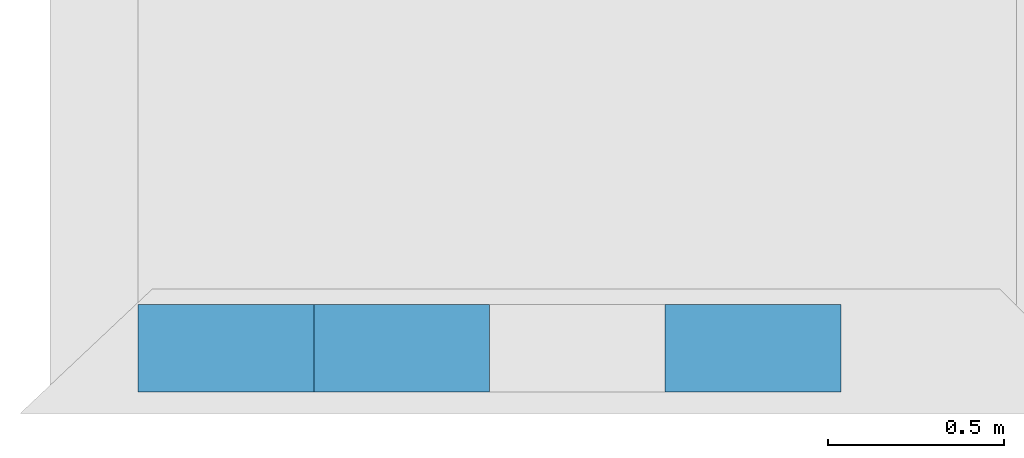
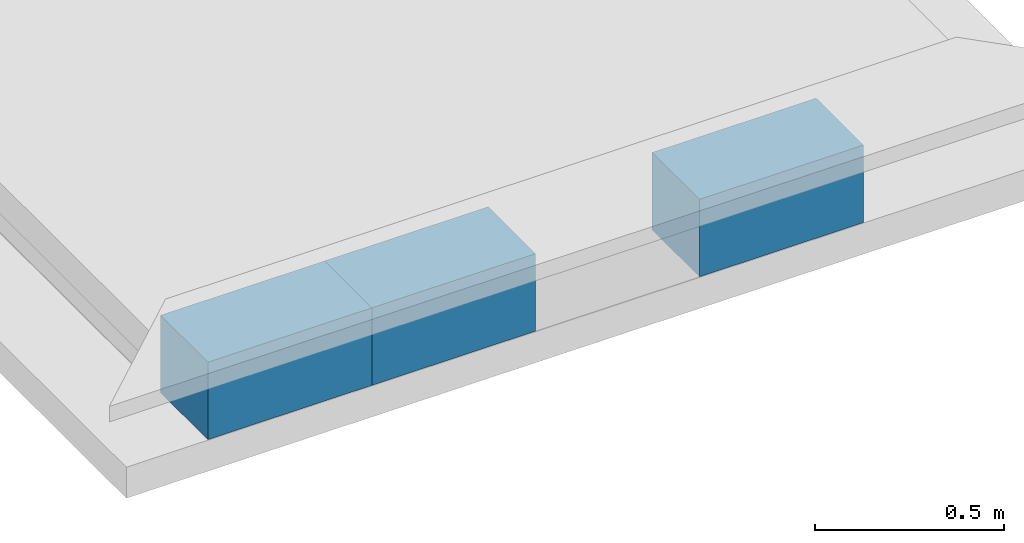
# One storey, part 1 of 3: 3 walls.
"""IFC4 building model written with IfcOpenShell, lengths in centimetres."""

import ifcopenshell
import ifcopenshell.guid

model = None  # the IFC model being written
_history = None  # IfcOwnerHistory: only IFC2X3 demands one
_inside = {}  # id of a spatial element -> (the spatial element, [elements in it])
_under = {}  # id of a project, library or spatial element -> (it, [spatial elements below it])
_declared = {}  # id of a project -> (the project, [libraries it declares])
_typed = {}  # id of a type object -> (the type object, [elements of that type])
_made_of = {}  # id of a material, layer set ... -> (it, [elements and type objects made of it])


def new_model(schema):
    """Start an empty IFC model of exactly this schema.

    Asked for "IFC4X3", IfcOpenShell would pick the latest addendum, in which some entities
    have other attributes; the version numbers below select the first issue.
    IFC2X3 requires an IfcOwnerHistory on every rooted entity: one is made here for all.
    """
    global model, _history
    if schema == "IFC4X3":
        model = ifcopenshell.file(schema_version=(4, 3, 0, 0))
    else:
        model = ifcopenshell.file(schema=schema)
    _inside.clear()
    _under.clear()
    _declared.clear()
    _typed.clear()
    _made_of.clear()
    _history = None
    if model.schema == "IFC2X3":
        org = make("IfcOrganization", Name="unknown")
        user = make(
            "IfcPersonAndOrganization",
            ThePerson=make("IfcPerson", FamilyName="unknown"),
            TheOrganization=org,
        )
        app = make(
            "IfcApplication",
            ApplicationDeveloper=org,
            Version="unknown",
            ApplicationFullName="unknown",
            ApplicationIdentifier="unknown",
        )
        _history = make(
            "IfcOwnerHistory",
            OwningUser=user,
            OwningApplication=app,
            ChangeAction="ADDED",
            CreationDate=0,
        )
    return model


def make(cls, **values):
    """One entity of the class cls with the attributes given. An attribute that is None is left unset."""
    return model.create_entity(
        cls, **{name: value for name, value in values.items() if value is not None}
    )


def entity(cls, *values):
    """Any entity or typed value of the class cls, its attributes in the order of the schema. None: left unset."""
    e = model.create_entity(cls)
    for i, value in enumerate(values):
        if value is not None:
            e[i] = value
    return e


def rooted(cls, **values):
    """An entity with a GlobalId (a new one), such as an element, a storey or a relation."""
    return make(cls, GlobalId=ifcopenshell.guid.new(), OwnerHistory=_history, **values)


def si_unit(unit_type, name, prefix=None):
    """IfcSIUnit, for example si_unit("LENGTHUNIT", "METRE", prefix="MILLI")."""
    return make("IfcSIUnit", UnitType=unit_type, Prefix=prefix, Name=name)


def converted_unit(unit_type, name, factor, base, dimensions=None, offset=None):
    """IfcConversionBasedUnit, such as the inch: factor (a typed value) times the base unit."""
    return make(
        "IfcConversionBasedUnit"
        if offset is None
        else "IfcConversionBasedUnitWithOffset",
        ConversionOffset=offset,
        Dimensions=None
        if dimensions is None
        else entity("IfcDimensionalExponents", *dimensions),
        UnitType=unit_type,
        Name=name,
        ConversionFactor=make(
            "IfcMeasureWithUnit", ValueComponent=factor, UnitComponent=base
        ),
    )


def assignment(units):
    """IfcUnitAssignment: the units of a project."""
    return None if units is None else make("IfcUnitAssignment", Units=units)


def point(xyz):
    """IfcCartesianPoint."""
    return None if xyz is None else make("IfcCartesianPoint", Coordinates=xyz)


def direction(xyz):
    """IfcDirection."""
    return None if xyz is None else make("IfcDirection", DirectionRatios=xyz)


def frame(location, z_axis=None, x_axis=None):
    """IfcAxis2Placement3D, a coordinate frame: its origin and axes. An axis left out is left unset."""
    return make(
        "IfcAxis2Placement3D",
        Location=point(location),
        Axis=direction(z_axis),
        RefDirection=direction(x_axis),
    )


def origin():
    """The frame at (0, 0, 0) with its axes left unset."""
    return frame((0.0, 0.0, 0.0))


def place(relative_to, where):
    """IfcLocalPlacement: puts the frame where relative to a parent placement (None: the world)."""
    return make(
        "IfcLocalPlacement", PlacementRelTo=relative_to, RelativePlacement=where
    )


def context(
    kind, dimensions, precision=None, world=None, true_north=None, identifier=None
):
    """IfcGeometricRepresentationContext, for example the 3D "Model" context."""
    return make(
        "IfcGeometricRepresentationContext",
        ContextIdentifier=identifier,
        ContextType=kind,
        CoordinateSpaceDimension=dimensions,
        Precision=precision,
        WorldCoordinateSystem=world,
        TrueNorth=true_north,
    )


def subcontext(parent, identifier, kind, view, scale=None):
    """IfcGeometricRepresentationSubContext, for example "Body" below "Model"."""
    return make(
        "IfcGeometricRepresentationSubContext",
        ContextIdentifier=identifier,
        ContextType=kind,
        ParentContext=parent,
        TargetScale=scale,
        TargetView=view,
    )


def project(units=None, contexts=None):
    """IfcProject with its units and contexts."""
    return rooted(
        "IfcProject",
        Name="project",
        RepresentationContexts=contexts,
        UnitsInContext=assignment(units),
    )


def spatial(cls, under=None, at=None, **own):
    """A site, building, storey or space (cls), placed at a placement, below another one or the project."""
    s = rooted(cls, ObjectPlacement=at, **own)
    if under is not None:
        _under.setdefault(under.id(), (under, []))[1].append(s)
    return s


def point_list(points):
    """IfcCartesianPointList2D or 3D."""
    cls = (
        "IfcCartesianPointList2D" if len(points[0]) == 2 else "IfcCartesianPointList3D"
    )
    return make(cls, CoordList=points)


def indexed_curve(points, segments=None, self_intersect=None):
    """IfcIndexedPolyCurve: lines and arcs through numbered points (the first is 1)."""
    return make(
        "IfcIndexedPolyCurve",
        Points=point_list(points),
        Segments=segments,
        SelfIntersect=self_intersect,
    )


def outline(outer, holes=None, kind="AREA"):
    """IfcArbitraryClosedProfileDef: a profile drawn as a closed curve; with holes, ...WithVoids."""
    if holes is None:
        return make("IfcArbitraryClosedProfileDef", ProfileType=kind, OuterCurve=outer)
    return make(
        "IfcArbitraryProfileDefWithVoids",
        ProfileType=kind,
        OuterCurve=outer,
        InnerCurves=holes,
    )


def extrude(swept, where, along, depth):
    """IfcExtrudedAreaSolid: the profile swept, set in the frame where, extruded along a direction by depth."""
    return make(
        "IfcExtrudedAreaSolid",
        SweptArea=swept,
        Position=where,
        ExtrudedDirection=direction(along),
        Depth=depth,
    )


def shape(context_of_items, identifier, shape_type, items):
    """IfcShapeRepresentation: the items that make up one representation, for example the "Body"."""
    return make(
        "IfcShapeRepresentation",
        ContextOfItems=context_of_items,
        RepresentationIdentifier=identifier,
        RepresentationType=shape_type,
        Items=items,
    )


def material(Name=None, Category=None):
    """IfcMaterial."""
    return make("IfcMaterial", Name=Name, Category=Category)


def made_of(thing, what):
    """Note that an element or type object is made of a material, layer set ...; save() writes the relation."""
    if what is not None:
        _made_of.setdefault(what.id(), (what, []))[1].append(thing)
    return thing


def type_object(cls, material=None, **own):
    """A type object (cls), such as IfcWallType, which elements share."""
    return made_of(rooted(cls, **own), material)


def element(
    cls,
    number,
    at=None,
    inside=None,
    cuts=None,
    type_object=None,
    material=None,
    context=None,
    identifier="Body",
    shape_type=None,
    held_by="IfcProductDefinitionShape",
    body=None,
    shapes=None,
    **own,
):
    """One element of the class cls, such as IfcWall. Its Tag is "e" and its number.

    at: its placement. inside: the storey or other place that contains it. cuts: it is an
    opening in that element (IfcRelVoidsElement). A single representation is given by context,
    identifier, shape_type and body (its items); several are given by shapes. held_by: the class
    of the entity that holds the representations. save() writes the other relations.
    """
    e = rooted(cls, Tag="e%d" % number, ObjectPlacement=at, **own)
    if body is not None:
        shapes = [shape(context, identifier, shape_type, body)]
    if shapes is not None:
        e.Representation = make(held_by, Representations=shapes)
    if inside is not None:
        _inside.setdefault(inside.id(), (inside, []))[1].append(e)
    if cuts is not None:
        rooted(
            "IfcRelVoidsElement", RelatingBuildingElement=cuts, RelatedOpeningElement=e
        )
    if type_object is not None:
        _typed.setdefault(type_object.id(), (type_object, []))[1].append(e)
    return made_of(e, material)


def aggregate(whole, parts):
    """IfcRelAggregates: a whole, such as a stair, and the parts it consists of."""
    return rooted("IfcRelAggregates", RelatingObject=whole, RelatedObjects=parts)


def save(model, path):
    """Write the relations noted so far, then the file.

    IfcRelAggregates (storeys below a building ...), IfcRelContainedInSpatialStructure (elements
    in a storey), IfcRelDefinesByType, IfcRelAssociatesMaterial and IfcRelDeclares: one each for
    every whole, place, type object, material and project.
    """
    for whole, parts in _under.values():
        aggregate(whole, parts)
    for where, things in _inside.values():
        rooted(
            "IfcRelContainedInSpatialStructure",
            RelatedElements=things,
            RelatingStructure=where,
        )
    for kind, things in _typed.values():
        rooted("IfcRelDefinesByType", RelatedObjects=things, RelatingType=kind)
    for what, things in _made_of.values():
        rooted("IfcRelAssociatesMaterial", RelatedObjects=things, RelatingMaterial=what)
    for by, libraries in _declared.values():
        rooted("IfcRelDeclares", RelatingContext=by, RelatedDefinitions=libraries)
    model.write(path)


model = new_model("IFC4")

# Units and contexts
model_context = context("Model", 3, precision=0.001, world=origin(), true_north=direction((0.0, 1.0)))
body_context = subcontext(model_context, "Body", "Model", "MODEL_VIEW")
ifc_project = project(units=[si_unit("LENGTHUNIT", "METRE", prefix="CENTI"), si_unit("AREAUNIT", "SQUARE_METRE"), si_unit("VOLUMEUNIT", "CUBIC_METRE"), converted_unit("PLANEANGLEUNIT", "DEGREE", entity("IfcPlaneAngleMeasure", 0.017453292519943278), si_unit("PLANEANGLEUNIT", "RADIAN"), dimensions=[0, 0, 0, 0, 0, 0, 0])], contexts=[model_context])

# Site, building, storey
site_placement = place(None, origin())
site = spatial("IfcSite", under=ifc_project, at=site_placement, Name="Default", CompositionType="ELEMENT")
building_placement = place(site_placement, origin())
building = spatial("IfcBuilding", under=site, at=building_placement, CompositionType="ELEMENT")
storey_placement = place(building_placement, frame((0.0, 0.0, 256.0)))
storey = spatial("IfcBuildingStorey", under=building, at=storey_placement, Name="L01__ABOVE Slab", CompositionType="ELEMENT", Elevation=255.9999999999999)

# Walls
ifc_material = material(Name="Miscellaneous__Timber Block__Triqbriq, X", Category="Miscellaneous")
wall_type = type_object("IfcWallType", Name="Columns : wll_s__TIMBER BLOCK__Triqbriq, Full Width__wp : WS25", PredefinedType="SOLIDWALL", material=ifc_material)
wall_1_placement = place(storey_placement, frame((3056.8289147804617, 2128.5200309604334, 0.0)))
element("IfcWall", 1, at=wall_1_placement, inside=storey, type_object=wall_type, material=ifc_material, Name="Columns : wll_s__TIMBER BLOCK__Triqbriq, Full Width__wp : WS25", PredefinedType="SOLIDWALL", context=body_context, shape_type="SweptSolid", body=[
    extrude(outline(indexed_curve([(-4.166666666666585, -4.166666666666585), (4.166666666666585, -4.166666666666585), (4.166666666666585, 4.166666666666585), (-4.166666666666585, 4.166666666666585), (-4.166666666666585, -4.166666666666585)], self_intersect=False)), frame((37.50000000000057, 12.500000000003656, 16.666666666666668), z_axis=(0.0, 0.0, 1.0), x_axis=(0.0, 1.0, 0.0)), (0.0, 0.0, 1.0), 8.333333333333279),
    extrude(outline(indexed_curve([(-4.166666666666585, -4.166666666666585), (4.166666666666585, -4.166666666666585), (4.166666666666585, 4.166666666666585), (-4.166666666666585, 4.166666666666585), (-4.166666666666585, -4.166666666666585)], self_intersect=False)), frame((12.500000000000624, 12.500000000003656, 16.666666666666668), z_axis=(0.0, 0.0, 1.0), x_axis=(0.0, 1.0, 0.0)), (0.0, 0.0, 1.0), 8.333333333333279),
    extrude(outline(indexed_curve([(-4.166666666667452, -4.166666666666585), (4.166666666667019, -4.166666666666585), (4.166666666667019, 4.166666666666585), (-4.166666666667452, 4.166666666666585), (-4.166666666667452, -4.166666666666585)], self_intersect=False)), frame((45.83333333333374, 20.83333333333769, 8.333333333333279), z_axis=(0.0, 0.0, 1.0), x_axis=(0.0, 1.0, 0.0)), (0.0, 0.0, 1.0), 8.333333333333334),
    extrude(outline(indexed_curve([(-4.166666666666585, -4.166666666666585), (4.166666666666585, -4.166666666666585), (4.166666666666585, 4.166666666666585), (-4.166666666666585, 4.166666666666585), (-4.166666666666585, -4.166666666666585)], self_intersect=False)), frame((45.83333333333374, 4.166666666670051, 8.333333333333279), z_axis=(0.0, 0.0, 1.0), x_axis=(0.0, 1.0, 0.0)), (0.0, 0.0, 1.0), 8.333333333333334),
    extrude(outline(indexed_curve([(-4.166666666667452, -4.166666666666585), (4.166666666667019, -4.166666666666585), (4.166666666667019, 4.166666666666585), (-4.166666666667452, 4.166666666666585), (-4.166666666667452, -4.166666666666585)], self_intersect=False)), frame((4.166666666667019, 20.83333333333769, 8.333333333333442), z_axis=(0.0, 0.0, 1.0), x_axis=(0.0, 1.0, 0.0)), (0.0, 0.0, 1.0), 8.333333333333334),
    extrude(outline(indexed_curve([(-4.166666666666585, -4.166666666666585), (4.166666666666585, -4.166666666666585), (4.166666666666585, 4.166666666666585), (-4.166666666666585, 4.166666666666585), (-4.166666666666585, -4.166666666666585)], self_intersect=False)), frame((4.166666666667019, 4.166666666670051, 8.333333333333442), z_axis=(0.0, 0.0, 1.0), x_axis=(0.0, 1.0, 0.0)), (0.0, 0.0, 1.0), 8.333333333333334),
    extrude(outline(indexed_curve([(-4.166666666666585, -8.33333333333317), (4.166666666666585, -8.33333333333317), (4.166666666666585, 8.333333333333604), (-4.166666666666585, 8.333333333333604), (-4.166666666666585, -8.33333333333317)], self_intersect=False)), frame((25.0, 4.166666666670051, 8.333333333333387), z_axis=(0.0, 0.0, 1.0), x_axis=(0.0, 1.0, 0.0)), (0.0, 0.0, 1.0), 8.333333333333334),
    extrude(outline(indexed_curve([(-4.166666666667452, -8.33333333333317), (4.166666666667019, -8.33333333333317), (4.166666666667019, 8.333333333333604), (-4.166666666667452, 8.333333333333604), (-4.166666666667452, -8.33333333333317)], self_intersect=False)), frame((25.0, 20.83333333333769, 8.333333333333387), z_axis=(0.0, 0.0, 1.0), x_axis=(0.0, 1.0, 0.0)), (0.0, 0.0, 1.0), 8.333333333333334),
    extrude(outline(indexed_curve([(-4.166666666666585, -25.00000000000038), (4.166666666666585, -25.00000000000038), (4.166666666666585, 24.999999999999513), (-4.166666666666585, 24.999999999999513), (-4.166666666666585, -25.00000000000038)], self_intersect=False)), frame((25.0, 12.500000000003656, 8.333333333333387), z_axis=(0.0, 0.0, 1.0), x_axis=(0.0, 1.0, 0.0)), (0.0, 0.0, 1.0), 8.333333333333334),
    extrude(outline(indexed_curve([(-12.50000000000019, -4.166666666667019), (12.500000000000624, -4.166666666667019), (12.500000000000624, 4.166666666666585), (-12.50000000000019, 4.166666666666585), (-12.50000000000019, -4.166666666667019)], self_intersect=False)), frame((29.1666666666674, 12.500000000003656, 0.0), z_axis=(0.0, 0.0, 1.0), x_axis=(0.0, 1.0, 0.0)), (0.0, 0.0, 1.0), 8.333333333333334),
    extrude(outline(indexed_curve([(-12.50000000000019, -4.166666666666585), (12.500000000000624, -4.166666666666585), (12.500000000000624, 4.166666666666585), (-12.50000000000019, 4.166666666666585), (-12.50000000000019, -4.166666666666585)], self_intersect=False)), frame((20.833333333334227, 12.500000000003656, 0.0), z_axis=(0.0, 0.0, 1.0), x_axis=(0.0, 1.0, 0.0)), (0.0, 0.0, 1.0), 8.333333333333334),
    extrude(outline(indexed_curve([(-12.50000000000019, -4.166666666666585), (12.500000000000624, -4.166666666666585), (12.500000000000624, 4.166666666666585), (-12.50000000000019, 4.166666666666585), (-12.50000000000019, -4.166666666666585)], self_intersect=False)), frame((45.833333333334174, 12.500000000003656, 0.0), z_axis=(0.0, 0.0, 1.0), x_axis=(0.0, 1.0, 0.0)), (0.0, 0.0, 1.0), 8.333333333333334),
    extrude(outline(indexed_curve([(-12.50000000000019, -4.166666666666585), (12.500000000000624, -4.166666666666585), (12.500000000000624, 4.166666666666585), (-12.50000000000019, 4.166666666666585), (-12.50000000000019, -4.166666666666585)], self_intersect=False)), frame((4.166666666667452, 12.500000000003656, 0.0), z_axis=(0.0, 0.0, 1.0), x_axis=(0.0, 1.0, 0.0)), (0.0, 0.0, 1.0), 8.333333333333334),
    extrude(outline(indexed_curve([(-4.166666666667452, -4.166666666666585), (4.166666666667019, -4.166666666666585), (4.166666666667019, 4.166666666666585), (-4.166666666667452, 4.166666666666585), (-4.166666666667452, -4.166666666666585)], self_intersect=False)), frame((37.500000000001, 20.83333333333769, 0.0), z_axis=(0.0, 0.0, 1.0), x_axis=(0.0, 1.0, 0.0)), (0.0, 0.0, 1.0), 25.0),
    extrude(outline(indexed_curve([(-4.166666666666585, -4.166666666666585), (4.166666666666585, -4.166666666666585), (4.166666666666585, 4.166666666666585), (-4.166666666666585, 4.166666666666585), (-4.166666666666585, -4.166666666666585)], self_intersect=False)), frame((37.500000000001, 4.166666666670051, 0.0), z_axis=(0.0, 0.0, 1.0), x_axis=(0.0, 1.0, 0.0)), (0.0, 0.0, 1.0), 25.0),
    extrude(outline(indexed_curve([(-4.166666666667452, -4.166666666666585), (4.166666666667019, -4.166666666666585), (4.166666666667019, 4.166666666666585), (-4.166666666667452, 4.166666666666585), (-4.166666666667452, -4.166666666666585)], self_intersect=False)), frame((12.500000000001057, 20.83333333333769, 0.0), z_axis=(0.0, 0.0, 1.0), x_axis=(0.0, 1.0, 0.0)), (0.0, 0.0, 1.0), 25.0),
    extrude(outline(indexed_curve([(-4.166666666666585, -4.166666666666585), (4.166666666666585, -4.166666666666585), (4.166666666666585, 4.166666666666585), (-4.166666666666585, 4.166666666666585), (-4.166666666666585, -4.166666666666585)], self_intersect=False)), frame((12.500000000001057, 4.166666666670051, 0.0), z_axis=(0.0, 0.0, 1.0), x_axis=(0.0, 1.0, 0.0)), (0.0, 0.0, 1.0), 25.0),
    extrude(outline(indexed_curve([(-12.50000000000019, -4.166666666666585), (12.500000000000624, -4.166666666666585), (12.500000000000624, 4.166666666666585), (-12.50000000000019, 4.166666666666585), (-12.50000000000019, -4.166666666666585)], self_intersect=False)), frame((45.83333333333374, 12.500000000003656, 16.666666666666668), z_axis=(0.0, 0.0, 1.0), x_axis=(0.0, 1.0, 0.0)), (0.0, 0.0, 1.0), 8.333333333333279),
    extrude(outline(indexed_curve([(-12.50000000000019, -4.166666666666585), (12.500000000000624, -4.166666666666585), (12.500000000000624, 4.166666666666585), (-12.50000000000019, 4.166666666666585), (-12.50000000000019, -4.166666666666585)], self_intersect=False)), frame((29.1666666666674, 12.500000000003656, 16.666666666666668), z_axis=(0.0, 0.0, 1.0), x_axis=(0.0, 1.0, 0.0)), (0.0, 0.0, 1.0), 8.333333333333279),
    extrude(outline(indexed_curve([(-12.50000000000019, -4.166666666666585), (12.500000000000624, -4.166666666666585), (12.500000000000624, 4.166666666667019), (-12.50000000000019, 4.166666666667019), (-12.50000000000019, -4.166666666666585)], self_intersect=False)), frame((20.833333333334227, 12.500000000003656, 16.666666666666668), z_axis=(0.0, 0.0, 1.0), x_axis=(0.0, 1.0, 0.0)), (0.0, 0.0, 1.0), 8.333333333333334),
    extrude(outline(indexed_curve([(-12.50000000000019, -4.166666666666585), (12.500000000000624, -4.166666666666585), (12.500000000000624, 4.166666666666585), (-12.50000000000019, 4.166666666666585), (-12.50000000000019, -4.166666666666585)], self_intersect=False)), frame((4.166666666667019, 12.500000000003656, 16.666666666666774), z_axis=(0.0, 0.0, 1.0), x_axis=(0.0, 1.0, 0.0)), (0.0, 0.0, 1.0), 8.333333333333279),
])
wall_2_placement = place(storey_placement, frame((2956.828914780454, 2128.5200309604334, 0.0)))
element("IfcWall", 2, at=wall_2_placement, inside=storey, type_object=wall_type, material=ifc_material, Name="Columns : wll_s__TIMBER BLOCK__Triqbriq, Full Width__wp : WS25", PredefinedType="SOLIDWALL", context=body_context, shape_type="SweptSolid", body=[
    extrude(outline(indexed_curve([(-4.166666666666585, -4.166666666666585), (4.166666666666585, -4.166666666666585), (4.166666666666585, 4.166666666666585), (-4.166666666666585, 4.166666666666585), (-4.166666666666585, -4.166666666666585)], self_intersect=False)), frame((37.50000000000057, 12.500000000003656, 16.666666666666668), z_axis=(0.0, 0.0, 1.0), x_axis=(0.0, 1.0, 0.0)), (0.0, 0.0, 1.0), 8.333333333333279),
    extrude(outline(indexed_curve([(-4.166666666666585, -4.166666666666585), (4.166666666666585, -4.166666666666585), (4.166666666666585, 4.166666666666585), (-4.166666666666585, 4.166666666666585), (-4.166666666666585, -4.166666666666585)], self_intersect=False)), frame((12.500000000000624, 12.500000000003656, 16.666666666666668), z_axis=(0.0, 0.0, 1.0), x_axis=(0.0, 1.0, 0.0)), (0.0, 0.0, 1.0), 8.333333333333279),
    extrude(outline(indexed_curve([(-4.166666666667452, -4.166666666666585), (4.166666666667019, -4.166666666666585), (4.166666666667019, 4.166666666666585), (-4.166666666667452, 4.166666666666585), (-4.166666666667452, -4.166666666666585)], self_intersect=False)), frame((45.83333333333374, 20.83333333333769, 8.333333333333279), z_axis=(0.0, 0.0, 1.0), x_axis=(0.0, 1.0, 0.0)), (0.0, 0.0, 1.0), 8.333333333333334),
    extrude(outline(indexed_curve([(-4.166666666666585, -4.166666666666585), (4.166666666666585, -4.166666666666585), (4.166666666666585, 4.166666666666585), (-4.166666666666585, 4.166666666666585), (-4.166666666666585, -4.166666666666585)], self_intersect=False)), frame((45.83333333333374, 4.166666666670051, 8.333333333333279), z_axis=(0.0, 0.0, 1.0), x_axis=(0.0, 1.0, 0.0)), (0.0, 0.0, 1.0), 8.333333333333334),
    extrude(outline(indexed_curve([(-4.166666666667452, -4.166666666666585), (4.166666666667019, -4.166666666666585), (4.166666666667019, 4.166666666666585), (-4.166666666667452, 4.166666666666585), (-4.166666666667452, -4.166666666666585)], self_intersect=False)), frame((4.166666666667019, 20.83333333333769, 8.333333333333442), z_axis=(0.0, 0.0, 1.0), x_axis=(0.0, 1.0, 0.0)), (0.0, 0.0, 1.0), 8.333333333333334),
    extrude(outline(indexed_curve([(-4.166666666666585, -4.166666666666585), (4.166666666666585, -4.166666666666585), (4.166666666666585, 4.166666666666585), (-4.166666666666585, 4.166666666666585), (-4.166666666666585, -4.166666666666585)], self_intersect=False)), frame((4.166666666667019, 4.166666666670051, 8.333333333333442), z_axis=(0.0, 0.0, 1.0), x_axis=(0.0, 1.0, 0.0)), (0.0, 0.0, 1.0), 8.333333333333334),
    extrude(outline(indexed_curve([(-4.166666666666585, -8.333333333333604), (4.166666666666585, -8.333333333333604), (4.166666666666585, 8.33333333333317), (-4.166666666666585, 8.33333333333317), (-4.166666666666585, -8.333333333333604)], self_intersect=False)), frame((25.0, 4.166666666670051, 8.333333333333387), z_axis=(0.0, 0.0, 1.0), x_axis=(0.0, 1.0, 0.0)), (0.0, 0.0, 1.0), 8.333333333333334),
    extrude(outline(indexed_curve([(-4.166666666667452, -8.333333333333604), (4.166666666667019, -8.333333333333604), (4.166666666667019, 8.33333333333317), (-4.166666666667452, 8.33333333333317), (-4.166666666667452, -8.333333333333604)], self_intersect=False)), frame((25.0, 20.83333333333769, 8.333333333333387), z_axis=(0.0, 0.0, 1.0), x_axis=(0.0, 1.0, 0.0)), (0.0, 0.0, 1.0), 8.333333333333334),
    extrude(outline(indexed_curve([(-4.166666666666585, -24.999999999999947), (4.166666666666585, -24.999999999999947), (4.166666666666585, 24.999999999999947), (-4.166666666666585, 24.999999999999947), (-4.166666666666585, -24.999999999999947)], self_intersect=False)), frame((25.0, 12.500000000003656, 8.333333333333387), z_axis=(0.0, 0.0, 1.0), x_axis=(0.0, 1.0, 0.0)), (0.0, 0.0, 1.0), 8.333333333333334),
    extrude(outline(indexed_curve([(-12.50000000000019, -4.166666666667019), (12.500000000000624, -4.166666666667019), (12.500000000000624, 4.166666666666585), (-12.50000000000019, 4.166666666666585), (-12.50000000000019, -4.166666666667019)], self_intersect=False)), frame((29.1666666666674, 12.500000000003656, 0.0), z_axis=(0.0, 0.0, 1.0), x_axis=(0.0, 1.0, 0.0)), (0.0, 0.0, 1.0), 8.333333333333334),
    extrude(outline(indexed_curve([(-12.50000000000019, -4.166666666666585), (12.500000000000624, -4.166666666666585), (12.500000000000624, 4.166666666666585), (-12.50000000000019, 4.166666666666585), (-12.50000000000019, -4.166666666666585)], self_intersect=False)), frame((20.833333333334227, 12.500000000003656, 0.0), z_axis=(0.0, 0.0, 1.0), x_axis=(0.0, 1.0, 0.0)), (0.0, 0.0, 1.0), 8.333333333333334),
    extrude(outline(indexed_curve([(-12.50000000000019, -4.166666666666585), (12.500000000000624, -4.166666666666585), (12.500000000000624, 4.166666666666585), (-12.50000000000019, 4.166666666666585), (-12.50000000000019, -4.166666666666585)], self_intersect=False)), frame((45.833333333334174, 12.500000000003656, 0.0), z_axis=(0.0, 0.0, 1.0), x_axis=(0.0, 1.0, 0.0)), (0.0, 0.0, 1.0), 8.333333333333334),
    extrude(outline(indexed_curve([(-12.50000000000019, -4.166666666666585), (12.500000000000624, -4.166666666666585), (12.500000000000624, 4.166666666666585), (-12.50000000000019, 4.166666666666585), (-12.50000000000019, -4.166666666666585)], self_intersect=False)), frame((4.166666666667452, 12.500000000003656, 0.0), z_axis=(0.0, 0.0, 1.0), x_axis=(0.0, 1.0, 0.0)), (0.0, 0.0, 1.0), 8.333333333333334),
    extrude(outline(indexed_curve([(-4.166666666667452, -4.166666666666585), (4.166666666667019, -4.166666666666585), (4.166666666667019, 4.166666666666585), (-4.166666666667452, 4.166666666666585), (-4.166666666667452, -4.166666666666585)], self_intersect=False)), frame((37.500000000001, 20.83333333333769, 0.0), z_axis=(0.0, 0.0, 1.0), x_axis=(0.0, 1.0, 0.0)), (0.0, 0.0, 1.0), 25.0),
    extrude(outline(indexed_curve([(-4.166666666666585, -4.166666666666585), (4.166666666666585, -4.166666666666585), (4.166666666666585, 4.166666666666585), (-4.166666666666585, 4.166666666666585), (-4.166666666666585, -4.166666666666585)], self_intersect=False)), frame((37.500000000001, 4.166666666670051, 0.0), z_axis=(0.0, 0.0, 1.0), x_axis=(0.0, 1.0, 0.0)), (0.0, 0.0, 1.0), 25.0),
    extrude(outline(indexed_curve([(-4.166666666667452, -4.166666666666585), (4.166666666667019, -4.166666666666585), (4.166666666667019, 4.166666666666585), (-4.166666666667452, 4.166666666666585), (-4.166666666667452, -4.166666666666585)], self_intersect=False)), frame((12.500000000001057, 20.83333333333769, 0.0), z_axis=(0.0, 0.0, 1.0), x_axis=(0.0, 1.0, 0.0)), (0.0, 0.0, 1.0), 25.0),
    extrude(outline(indexed_curve([(-4.166666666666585, -4.166666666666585), (4.166666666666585, -4.166666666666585), (4.166666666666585, 4.166666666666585), (-4.166666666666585, 4.166666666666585), (-4.166666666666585, -4.166666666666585)], self_intersect=False)), frame((12.500000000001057, 4.166666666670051, 0.0), z_axis=(0.0, 0.0, 1.0), x_axis=(0.0, 1.0, 0.0)), (0.0, 0.0, 1.0), 25.0),
    extrude(outline(indexed_curve([(-12.50000000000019, -4.166666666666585), (12.500000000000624, -4.166666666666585), (12.500000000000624, 4.166666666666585), (-12.50000000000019, 4.166666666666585), (-12.50000000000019, -4.166666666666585)], self_intersect=False)), frame((45.83333333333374, 12.500000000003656, 16.666666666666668), z_axis=(0.0, 0.0, 1.0), x_axis=(0.0, 1.0, 0.0)), (0.0, 0.0, 1.0), 8.333333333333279),
    extrude(outline(indexed_curve([(-12.50000000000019, -4.166666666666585), (12.500000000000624, -4.166666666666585), (12.500000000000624, 4.166666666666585), (-12.50000000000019, 4.166666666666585), (-12.50000000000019, -4.166666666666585)], self_intersect=False)), frame((29.1666666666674, 12.500000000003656, 16.666666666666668), z_axis=(0.0, 0.0, 1.0), x_axis=(0.0, 1.0, 0.0)), (0.0, 0.0, 1.0), 8.333333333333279),
    extrude(outline(indexed_curve([(-12.50000000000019, -4.166666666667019), (12.500000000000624, -4.166666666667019), (12.500000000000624, 4.166666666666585), (-12.50000000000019, 4.166666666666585), (-12.50000000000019, -4.166666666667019)], self_intersect=False)), frame((20.833333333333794, 12.500000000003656, 16.666666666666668), z_axis=(0.0, 0.0, 1.0), x_axis=(0.0, 1.0, 0.0)), (0.0, 0.0, 1.0), 8.333333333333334),
    extrude(outline(indexed_curve([(-12.50000000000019, -4.166666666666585), (12.500000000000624, -4.166666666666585), (12.500000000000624, 4.166666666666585), (-12.50000000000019, 4.166666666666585), (-12.50000000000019, -4.166666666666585)], self_intersect=False)), frame((4.166666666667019, 12.500000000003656, 16.666666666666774), z_axis=(0.0, 0.0, 1.0), x_axis=(0.0, 1.0, 0.0)), (0.0, 0.0, 1.0), 8.333333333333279),
])
wall_3_placement = place(storey_placement, frame((2906.8289147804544, 2128.5200309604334, 0.0)))
element("IfcWall", 3, at=wall_3_placement, inside=storey, type_object=wall_type, material=ifc_material, Name="Columns : wll_s__TIMBER BLOCK__Triqbriq, Full Width__wp : WS25", PredefinedType="SOLIDWALL", context=body_context, shape_type="SweptSolid", body=[
    extrude(outline(indexed_curve([(-4.166666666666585, -4.166666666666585), (4.166666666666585, -4.166666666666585), (4.166666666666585, 4.166666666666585), (-4.166666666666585, 4.166666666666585), (-4.166666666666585, -4.166666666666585)], self_intersect=False)), frame((37.50000000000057, 12.500000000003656, 16.666666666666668), z_axis=(0.0, 0.0, 1.0), x_axis=(0.0, 1.0, 0.0)), (0.0, 0.0, 1.0), 8.333333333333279),
    extrude(outline(indexed_curve([(-4.166666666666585, -4.166666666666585), (4.166666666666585, -4.166666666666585), (4.166666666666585, 4.166666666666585), (-4.166666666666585, 4.166666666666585), (-4.166666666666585, -4.166666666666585)], self_intersect=False)), frame((12.500000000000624, 12.500000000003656, 16.666666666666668), z_axis=(0.0, 0.0, 1.0), x_axis=(0.0, 1.0, 0.0)), (0.0, 0.0, 1.0), 8.333333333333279),
    extrude(outline(indexed_curve([(-4.166666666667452, -4.166666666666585), (4.166666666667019, -4.166666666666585), (4.166666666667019, 4.166666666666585), (-4.166666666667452, 4.166666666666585), (-4.166666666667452, -4.166666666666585)], self_intersect=False)), frame((45.83333333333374, 20.83333333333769, 8.333333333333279), z_axis=(0.0, 0.0, 1.0), x_axis=(0.0, 1.0, 0.0)), (0.0, 0.0, 1.0), 8.333333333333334),
    extrude(outline(indexed_curve([(-4.166666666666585, -4.166666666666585), (4.166666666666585, -4.166666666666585), (4.166666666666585, 4.166666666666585), (-4.166666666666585, 4.166666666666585), (-4.166666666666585, -4.166666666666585)], self_intersect=False)), frame((45.83333333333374, 4.166666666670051, 8.333333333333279), z_axis=(0.0, 0.0, 1.0), x_axis=(0.0, 1.0, 0.0)), (0.0, 0.0, 1.0), 8.333333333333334),
    extrude(outline(indexed_curve([(-4.166666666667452, -4.166666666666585), (4.166666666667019, -4.166666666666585), (4.166666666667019, 4.166666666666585), (-4.166666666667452, 4.166666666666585), (-4.166666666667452, -4.166666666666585)], self_intersect=False)), frame((4.166666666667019, 20.83333333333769, 8.333333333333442), z_axis=(0.0, 0.0, 1.0), x_axis=(0.0, 1.0, 0.0)), (0.0, 0.0, 1.0), 8.333333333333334),
    extrude(outline(indexed_curve([(-4.166666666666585, -4.166666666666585), (4.166666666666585, -4.166666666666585), (4.166666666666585, 4.166666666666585), (-4.166666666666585, 4.166666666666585), (-4.166666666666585, -4.166666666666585)], self_intersect=False)), frame((4.166666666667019, 4.166666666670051, 8.333333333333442), z_axis=(0.0, 0.0, 1.0), x_axis=(0.0, 1.0, 0.0)), (0.0, 0.0, 1.0), 8.333333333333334),
    extrude(outline(indexed_curve([(-4.166666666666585, -8.33333333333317), (4.166666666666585, -8.33333333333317), (4.166666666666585, 8.333333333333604), (-4.166666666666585, 8.333333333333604), (-4.166666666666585, -8.33333333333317)], self_intersect=False)), frame((25.0, 4.166666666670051, 8.333333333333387), z_axis=(0.0, 0.0, 1.0), x_axis=(0.0, 1.0, 0.0)), (0.0, 0.0, 1.0), 8.333333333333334),
    extrude(outline(indexed_curve([(-4.166666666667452, -8.33333333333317), (4.166666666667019, -8.33333333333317), (4.166666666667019, 8.333333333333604), (-4.166666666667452, 8.333333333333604), (-4.166666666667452, -8.33333333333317)], self_intersect=False)), frame((25.0, 20.83333333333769, 8.333333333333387), z_axis=(0.0, 0.0, 1.0), x_axis=(0.0, 1.0, 0.0)), (0.0, 0.0, 1.0), 8.333333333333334),
    extrude(outline(indexed_curve([(-4.166666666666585, -24.999999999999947), (4.166666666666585, -24.999999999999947), (4.166666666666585, 24.999999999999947), (-4.166666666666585, 24.999999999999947), (-4.166666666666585, -24.999999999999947)], self_intersect=False)), frame((25.0, 12.500000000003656, 8.333333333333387), z_axis=(0.0, 0.0, 1.0), x_axis=(0.0, 1.0, 0.0)), (0.0, 0.0, 1.0), 8.333333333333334),
    extrude(outline(indexed_curve([(-12.50000000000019, -4.166666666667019), (12.500000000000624, -4.166666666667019), (12.500000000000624, 4.166666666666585), (-12.50000000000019, 4.166666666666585), (-12.50000000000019, -4.166666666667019)], self_intersect=False)), frame((29.1666666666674, 12.500000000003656, 0.0), z_axis=(0.0, 0.0, 1.0), x_axis=(0.0, 1.0, 0.0)), (0.0, 0.0, 1.0), 8.333333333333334),
    extrude(outline(indexed_curve([(-12.50000000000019, -4.166666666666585), (12.500000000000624, -4.166666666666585), (12.500000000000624, 4.166666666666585), (-12.50000000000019, 4.166666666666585), (-12.50000000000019, -4.166666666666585)], self_intersect=False)), frame((20.833333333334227, 12.500000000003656, 0.0), z_axis=(0.0, 0.0, 1.0), x_axis=(0.0, 1.0, 0.0)), (0.0, 0.0, 1.0), 8.333333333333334),
    extrude(outline(indexed_curve([(-12.50000000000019, -4.166666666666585), (12.500000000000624, -4.166666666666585), (12.500000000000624, 4.166666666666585), (-12.50000000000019, 4.166666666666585), (-12.50000000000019, -4.166666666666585)], self_intersect=False)), frame((45.833333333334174, 12.500000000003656, 0.0), z_axis=(0.0, 0.0, 1.0), x_axis=(0.0, 1.0, 0.0)), (0.0, 0.0, 1.0), 8.333333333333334),
    extrude(outline(indexed_curve([(-12.50000000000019, -4.166666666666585), (12.500000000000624, -4.166666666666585), (12.500000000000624, 4.166666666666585), (-12.50000000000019, 4.166666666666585), (-12.50000000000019, -4.166666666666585)], self_intersect=False)), frame((4.166666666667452, 12.500000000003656, 0.0), z_axis=(0.0, 0.0, 1.0), x_axis=(0.0, 1.0, 0.0)), (0.0, 0.0, 1.0), 8.333333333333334),
    extrude(outline(indexed_curve([(-4.166666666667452, -4.166666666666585), (4.166666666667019, -4.166666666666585), (4.166666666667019, 4.166666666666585), (-4.166666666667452, 4.166666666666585), (-4.166666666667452, -4.166666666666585)], self_intersect=False)), frame((37.500000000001, 20.83333333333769, 0.0), z_axis=(0.0, 0.0, 1.0), x_axis=(0.0, 1.0, 0.0)), (0.0, 0.0, 1.0), 25.0),
    extrude(outline(indexed_curve([(-4.166666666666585, -4.166666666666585), (4.166666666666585, -4.166666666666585), (4.166666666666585, 4.166666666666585), (-4.166666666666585, 4.166666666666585), (-4.166666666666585, -4.166666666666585)], self_intersect=False)), frame((37.500000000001, 4.166666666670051, 0.0), z_axis=(0.0, 0.0, 1.0), x_axis=(0.0, 1.0, 0.0)), (0.0, 0.0, 1.0), 25.0),
    extrude(outline(indexed_curve([(-4.166666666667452, -4.166666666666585), (4.166666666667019, -4.166666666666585), (4.166666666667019, 4.166666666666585), (-4.166666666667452, 4.166666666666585), (-4.166666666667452, -4.166666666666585)], self_intersect=False)), frame((12.500000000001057, 20.83333333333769, 0.0), z_axis=(0.0, 0.0, 1.0), x_axis=(0.0, 1.0, 0.0)), (0.0, 0.0, 1.0), 25.0),
    extrude(outline(indexed_curve([(-4.166666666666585, -4.166666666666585), (4.166666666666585, -4.166666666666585), (4.166666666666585, 4.166666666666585), (-4.166666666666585, 4.166666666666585), (-4.166666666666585, -4.166666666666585)], self_intersect=False)), frame((12.500000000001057, 4.166666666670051, 0.0), z_axis=(0.0, 0.0, 1.0), x_axis=(0.0, 1.0, 0.0)), (0.0, 0.0, 1.0), 25.0),
    extrude(outline(indexed_curve([(-12.50000000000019, -4.166666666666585), (12.500000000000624, -4.166666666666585), (12.500000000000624, 4.166666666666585), (-12.50000000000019, 4.166666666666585), (-12.50000000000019, -4.166666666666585)], self_intersect=False)), frame((45.83333333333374, 12.500000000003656, 16.666666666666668), z_axis=(0.0, 0.0, 1.0), x_axis=(0.0, 1.0, 0.0)), (0.0, 0.0, 1.0), 8.333333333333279),
    extrude(outline(indexed_curve([(-12.50000000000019, -4.166666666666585), (12.500000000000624, -4.166666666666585), (12.500000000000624, 4.166666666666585), (-12.50000000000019, 4.166666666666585), (-12.50000000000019, -4.166666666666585)], self_intersect=False)), frame((29.1666666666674, 12.500000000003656, 16.666666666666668), z_axis=(0.0, 0.0, 1.0), x_axis=(0.0, 1.0, 0.0)), (0.0, 0.0, 1.0), 8.333333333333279),
    extrude(outline(indexed_curve([(-12.50000000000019, -4.166666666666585), (12.500000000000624, -4.166666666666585), (12.500000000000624, 4.166666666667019), (-12.50000000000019, 4.166666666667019), (-12.50000000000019, -4.166666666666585)], self_intersect=False)), frame((20.833333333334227, 12.500000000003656, 16.666666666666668), z_axis=(0.0, 0.0, 1.0), x_axis=(0.0, 1.0, 0.0)), (0.0, 0.0, 1.0), 8.333333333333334),
    extrude(outline(indexed_curve([(-12.50000000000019, -4.166666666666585), (12.500000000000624, -4.166666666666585), (12.500000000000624, 4.166666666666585), (-12.50000000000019, 4.166666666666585), (-12.50000000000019, -4.166666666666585)], self_intersect=False)), frame((4.166666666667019, 12.500000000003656, 16.666666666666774), z_axis=(0.0, 0.0, 1.0), x_axis=(0.0, 1.0, 0.0)), (0.0, 0.0, 1.0), 8.333333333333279),
])

save(model, "model.ifc")
